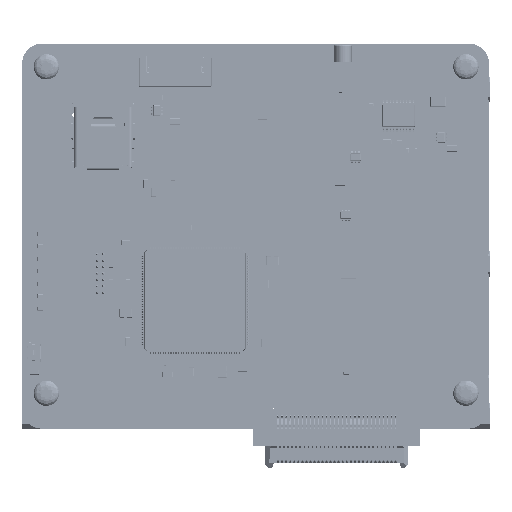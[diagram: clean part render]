
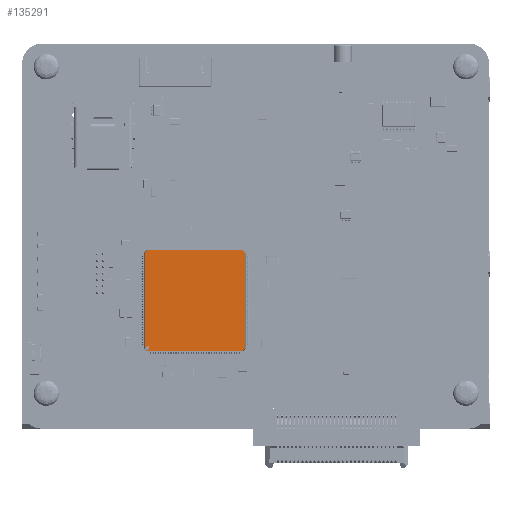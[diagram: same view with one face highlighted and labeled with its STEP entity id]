
A CAD part, top view. The second image highlights one B-rep face of the part: STEP entity #135291.
In plain terms, the highlighted planar face has unit normal (0, 0, 1).
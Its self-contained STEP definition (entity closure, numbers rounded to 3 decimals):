
#5350 = EDGE_CURVE ( 'NONE', #815756, #335635, #161641, .T. ) ;
#15709 = VERTEX_POINT ( 'NONE', #356116 ) ;
#18726 = CARTESIAN_POINT ( 'NONE',  ( -9.679, -9.679, 1.6 ) ) ;
#32729 = DIRECTION ( 'NONE',  ( -0.707, -0.707, 0. ) ) ;
#35857 = ORIENTED_EDGE ( 'NONE', *, *, #5350, .T. ) ;
#39380 = ORIENTED_EDGE ( 'NONE', *, *, #290855, .T. ) ;
#49537 = ORIENTED_EDGE ( 'NONE', *, *, #533438, .F. ) ;
#84524 = EDGE_LOOP ( 'NONE', ( #463623, #288181, #282917, #749914, #761476, #699026, #295950, #49537 ) ) ;
#87374 = VERTEX_POINT ( 'NONE', #274412 ) ;
#99302 = CARTESIAN_POINT ( 'NONE',  ( -9.9, 0., 1.6 ) ) ;
#113602 = CARTESIAN_POINT ( 'NONE',  ( -9.3, 9.3, 1.6 ) ) ;
#121406 = EDGE_CURVE ( 'NONE', #15709, #497284, #238989, .T. ) ;
#135291 = ADVANCED_FACE ( 'NONE', ( #821762, #356126 ), #625285, .T. ) ;
#145404 = EDGE_CURVE ( 'NONE', #500379, #252829, #296252, .T. ) ;
#153748 = VECTOR ( 'NONE', #616471, 1000. ) ;
#161641 = CIRCLE ( 'NONE', #830408, 0.3 ) ;
#166055 = CARTESIAN_POINT ( 'NONE',  ( -9.679, 9.679, 1.6 ) ) ;
#189219 = EDGE_CURVE ( 'NONE', #207350, #15709, #426627, .T. ) ;
#193027 = AXIS2_PLACEMENT_3D ( 'NONE', #813313, #227875, #296329 ) ;
#201081 = EDGE_LOOP ( 'NONE', ( #39380, #35857 ) ) ;
#202157 = AXIS2_PLACEMENT_3D ( 'NONE', #474693, #270023, #282655 ) ;
#207350 = VERTEX_POINT ( 'NONE', #352243 ) ;
#227806 = DIRECTION ( 'NONE',  ( 0., -1., 0. ) ) ;
#227875 = DIRECTION ( 'NONE',  ( 0., 0., 1. ) ) ;
#229274 = LINE ( 'NONE', #622461, #574343 ) ;
#235423 = VECTOR ( 'NONE', #800673, 1000. ) ;
#238989 = LINE ( 'NONE', #307398, #507703 ) ;
#241766 = DIRECTION ( 'NONE',  ( 1., 0., 0. ) ) ;
#252829 = VERTEX_POINT ( 'NONE', #629487 ) ;
#261641 = CARTESIAN_POINT ( 'NONE',  ( 9.9, 9.459, 1.6 ) ) ;
#270023 = DIRECTION ( 'NONE',  ( 0., 0., -1. ) ) ;
#274412 = CARTESIAN_POINT ( 'NONE',  ( -9.9, -9.459, 1.6 ) ) ;
#282655 = DIRECTION ( 'NONE',  ( 1., 0., 0. ) ) ;
#282917 = ORIENTED_EDGE ( 'NONE', *, *, #121406, .F. ) ;
#288181 = ORIENTED_EDGE ( 'NONE', *, *, #566466, .F. ) ;
#290855 = EDGE_CURVE ( 'NONE', #335635, #815756, #570713, .T. ) ;
#295950 = ORIENTED_EDGE ( 'NONE', *, *, #682408, .F. ) ;
#296252 = LINE ( 'NONE', #428320, #479013 ) ;
#296329 = DIRECTION ( 'NONE',  ( 1., 0., 0. ) ) ;
#302501 = VECTOR ( 'NONE', #613602, 1000. ) ;
#307398 = CARTESIAN_POINT ( 'NONE',  ( 0., 9.9, 1.6 ) ) ;
#335635 = VERTEX_POINT ( 'NONE', #798438 ) ;
#352243 = CARTESIAN_POINT ( 'NONE',  ( -9.9, 9.459, 1.6 ) ) ;
#356116 = CARTESIAN_POINT ( 'NONE',  ( -9.459, 9.9, 1.6 ) ) ;
#356126 = FACE_BOUND ( 'NONE', #201081, .T. ) ;
#383875 = CARTESIAN_POINT ( 'NONE',  ( 9.459, -9.9, 1.6 ) ) ;
#416786 = CARTESIAN_POINT ( 'NONE',  ( 9.679, 9.679, 1.6 ) ) ;
#426627 = LINE ( 'NONE', #166055, #671952 ) ;
#428320 = CARTESIAN_POINT ( 'NONE',  ( 9.9, 0., 1.6 ) ) ;
#449686 = VERTEX_POINT ( 'NONE', #841268 ) ;
#454173 = CARTESIAN_POINT ( 'NONE',  ( 9.459, 9.9, 1.6 ) ) ;
#463623 = ORIENTED_EDGE ( 'NONE', *, *, #145404, .F. ) ;
#474693 = CARTESIAN_POINT ( 'NONE',  ( -9.3, 9.3, 1.6 ) ) ;
#479013 = VECTOR ( 'NONE', #227806, 1000. ) ;
#497284 = VERTEX_POINT ( 'NONE', #454173 ) ;
#500379 = VERTEX_POINT ( 'NONE', #261641 ) ;
#507703 = VECTOR ( 'NONE', #760399, 1000. ) ;
#523728 = CARTESIAN_POINT ( 'NONE',  ( 0., -9.9, 1.6 ) ) ;
#533438 = EDGE_CURVE ( 'NONE', #252829, #663746, #229274, .T. ) ;
#566466 = EDGE_CURVE ( 'NONE', #497284, #500379, #781649, .T. ) ;
#570713 = CIRCLE ( 'NONE', #202157, 0.3 ) ;
#574343 = VECTOR ( 'NONE', #32729, 1000. ) ;
#590051 = EDGE_CURVE ( 'NONE', #449686, #87374, #604219, .T. ) ;
#603582 = VECTOR ( 'NONE', #609159, 1000. ) ;
#604219 = LINE ( 'NONE', #18726, #235423 ) ;
#609159 = DIRECTION ( 'NONE',  ( -1., 0., 0. ) ) ;
#613602 = DIRECTION ( 'NONE',  ( 0.707, -0.707, 0. ) ) ;
#616471 = DIRECTION ( 'NONE',  ( 0., 1., 0. ) ) ;
#622461 = CARTESIAN_POINT ( 'NONE',  ( 9.679, -9.679, 1.6 ) ) ;
#625285 = PLANE ( 'NONE',  #193027 ) ;
#629487 = CARTESIAN_POINT ( 'NONE',  ( 9.9, -9.459, 1.6 ) ) ;
#663746 = VERTEX_POINT ( 'NONE', #383875 ) ;
#671952 = VECTOR ( 'NONE', #755896, 1000. ) ;
#676318 = LINE ( 'NONE', #99302, #153748 ) ;
#682408 = EDGE_CURVE ( 'NONE', #663746, #449686, #733122, .T. ) ;
#699026 = ORIENTED_EDGE ( 'NONE', *, *, #590051, .F. ) ;
#716363 = CARTESIAN_POINT ( 'NONE',  ( -9.6, 9.3, 1.6 ) ) ;
#733122 = LINE ( 'NONE', #523728, #603582 ) ;
#749039 = EDGE_CURVE ( 'NONE', #87374, #207350, #676318, .T. ) ;
#749914 = ORIENTED_EDGE ( 'NONE', *, *, #189219, .F. ) ;
#755896 = DIRECTION ( 'NONE',  ( 0.707, 0.707, 0. ) ) ;
#760399 = DIRECTION ( 'NONE',  ( 1., 0., 0. ) ) ;
#761476 = ORIENTED_EDGE ( 'NONE', *, *, #749039, .F. ) ;
#775761 = DIRECTION ( 'NONE',  ( 0., 0., -1. ) ) ;
#781649 = LINE ( 'NONE', #416786, #302501 ) ;
#798438 = CARTESIAN_POINT ( 'NONE',  ( -9., 9.3, 1.6 ) ) ;
#800673 = DIRECTION ( 'NONE',  ( -0.707, 0.707, 0. ) ) ;
#813313 = CARTESIAN_POINT ( 'NONE',  ( 0., 0., 1.6 ) ) ;
#815756 = VERTEX_POINT ( 'NONE', #716363 ) ;
#821762 = FACE_OUTER_BOUND ( 'NONE', #84524, .T. ) ;
#830408 = AXIS2_PLACEMENT_3D ( 'NONE', #113602, #775761, #241766 ) ;
#841268 = CARTESIAN_POINT ( 'NONE',  ( -9.459, -9.9, 1.6 ) ) ;
